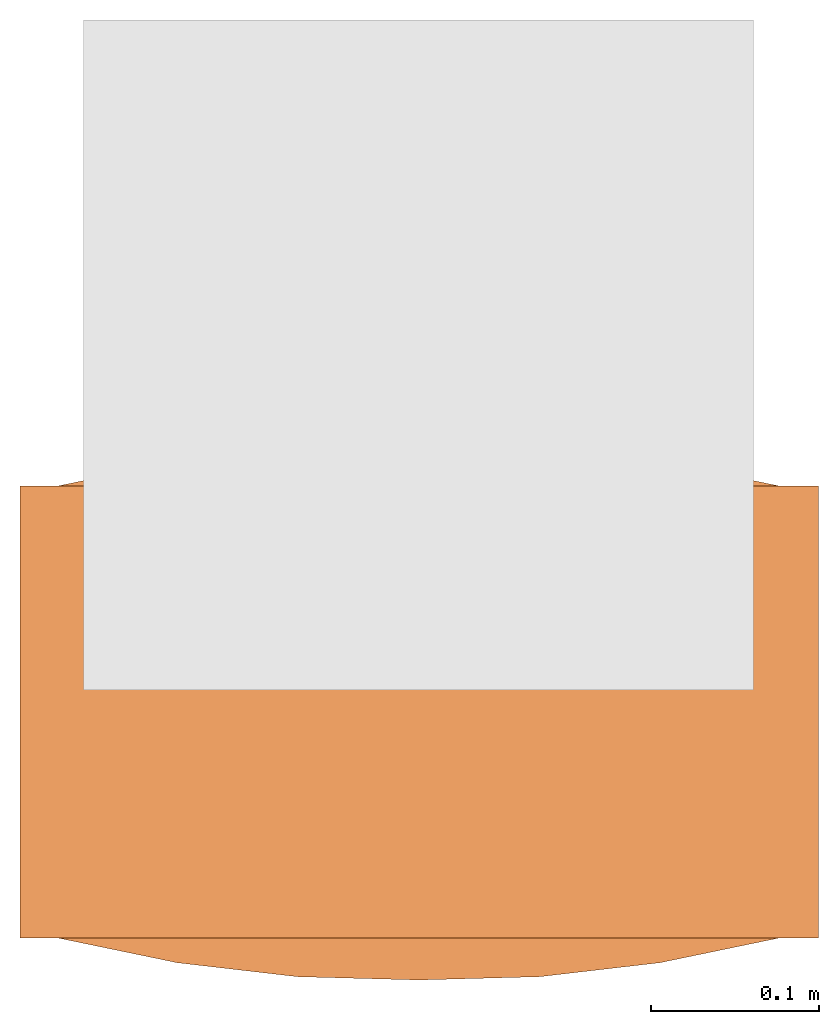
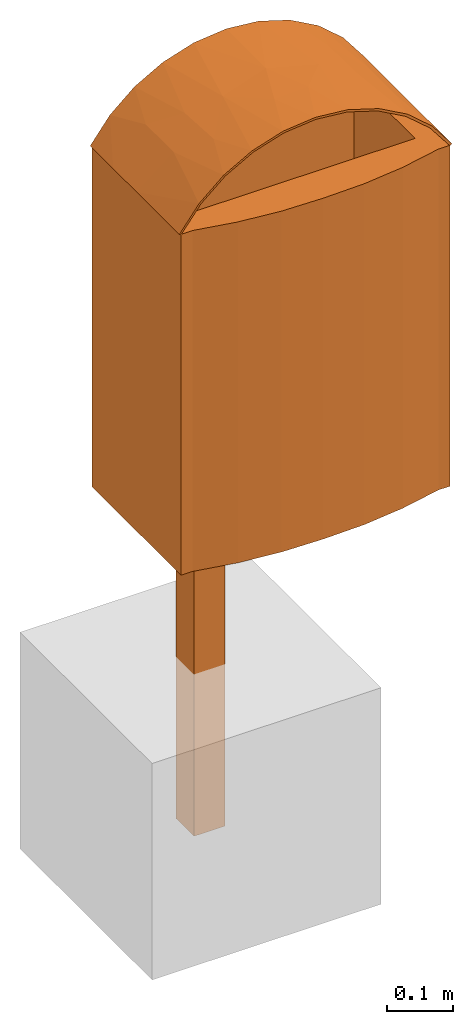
# One storey, part 2 of 2: 1 proxy.
"""IFC4 building model written with IfcOpenShell, lengths in metres."""

from ifc_helpers import new_model, entity, si_unit, converted_unit, direction, frame, origin, place, context, subcontext, project, spatial, polygons, source, transform, mapped, material, type_object, type_shapes, element, save


model = new_model("IFC4")

# Units and contexts
model_context = context("Model", 3, precision=1e-05, world=origin(), true_north=direction((6.123031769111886e-17, 1.0)))
body_context = subcontext(model_context, "Body", "Model", "MODEL_VIEW")
ifc_project = project(units=[si_unit("LENGTHUNIT", "METRE"), converted_unit("PLANEANGLEUNIT", "DEGREE", entity("IfcPlaneAngleMeasure", 0.017453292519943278), si_unit("PLANEANGLEUNIT", "RADIAN"), dimensions=[0, 0, 0, 0, 0, 0, 0]), si_unit("AREAUNIT", "SQUARE_METRE")], contexts=[model_context])

# Site, building, storey
site_placement = place(None, origin())
site = spatial("IfcSite", under=ifc_project, at=site_placement, Name="Default", CompositionType="ELEMENT")
building_placement = place(site_placement, origin())
building = spatial("IfcBuilding", under=site, at=building_placement, CompositionType="ELEMENT")
storey_placement = place(building_placement, origin())
storey = spatial("IfcBuildingStorey", under=building, at=storey_placement, Name="Ebene 0", CompositionType="ELEMENT", Elevation=0.0)

# Proxy
ifc_material = material(Name="DB_Stahl_pulverbeschichtet_DB702", Category="DB_Stahl")
building_element_proxy_type = type_object("IfcBuildingElementProxyType", Name="DB_Abfallbehaelter_einfach_60L_850x470x320_haengend:DB_Abfallbehaelter_einfach_60L_850x470x320_haengend", PredefinedType="NOTDEFINED", material=ifc_material)
shared_shape = source(origin(), body_context, "Body", "Tessellation", [
    polygons([(0.21499999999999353, 0.13500000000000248, 0.8799999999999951), (0.14416839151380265, 0.14969276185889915, 0.8799999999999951), (0.07231309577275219, 0.1580480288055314, 0.8799999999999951), (5.0421000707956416e-15, 0.15999999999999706, 0.8799999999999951), (-0.07231309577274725, 0.15804802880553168, 0.8799999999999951), (-0.1441683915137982, 0.1496927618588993, 0.8799999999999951), (-0.2149999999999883, 0.1350000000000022, 0.8799999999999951), (-0.234328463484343, 0.1349999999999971, 0.8799999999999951), (-0.234328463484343, -0.13499999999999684, 0.8799999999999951), (-0.21499999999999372, -0.13500000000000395, 0.8799999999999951), (-0.14416839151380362, -0.14969276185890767, 0.8799999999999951), (-0.07231309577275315, -0.158048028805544, 0.8799999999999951), (-5.0759396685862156e-15, -0.1600000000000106, 0.8799999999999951), (0.07231309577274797, -0.15804802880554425, 0.8799999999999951), (0.14416839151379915, -0.1496927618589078, 0.8799999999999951), (0.21499999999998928, -0.13500000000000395, 0.8799999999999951), (0.2343284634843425, -0.1349999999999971, 0.8799999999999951), (0.2343284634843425, 0.13499999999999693, 0.8799999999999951), (-0.20163629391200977, 0.09213573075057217, 0.8799999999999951), (0.19836370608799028, 0.09213573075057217, 0.8799999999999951), (0.19836370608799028, -0.09286426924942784, 0.8799999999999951), (-0.20163629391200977, -0.09286426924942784, 0.8799999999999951), (0.23499999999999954, 0.13499999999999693, 0.25), (0.2349999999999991, -0.13499999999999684, 0.25), (0.21499999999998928, -0.13500000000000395, 0.25), (0.14416839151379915, -0.1496927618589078, 0.25), (0.07231309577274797, -0.15804802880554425, 0.25), (-1.6919798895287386e-16, -0.16000000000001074, 0.25), (-0.07231309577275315, -0.158048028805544, 0.25), (-0.14416839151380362, -0.14969276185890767, 0.25), (-0.21499999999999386, -0.1349999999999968, 0.25), (-0.23499999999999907, -0.13499999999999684, 0.25), (-0.23499999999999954, 0.13499999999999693, 0.25), (-0.2149999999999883, 0.1350000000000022, 0.25), (-0.1441683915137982, 0.1496927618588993, 0.25), (-0.07231309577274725, 0.15804802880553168, 0.25), (-1.353583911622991e-16, 0.1599999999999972, 0.25), (0.07231309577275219, 0.1580480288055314, 0.25), (0.14416839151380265, 0.14969276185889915, 0.25), (0.2149999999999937, 0.13499999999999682, 0.25), (-0.23499999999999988, 0.13499999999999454, 0.8789180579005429), (-0.23792552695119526, 0.1349999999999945, 0.8807245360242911), (-0.20339187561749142, 0.13499999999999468, 0.9258499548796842), (-0.16043496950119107, 0.1349999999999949, 0.9630771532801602), (-0.1108227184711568, 0.13499999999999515, 0.9908632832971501), (-0.05659911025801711, 0.13499999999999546, 1.0080542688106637), (-1.049027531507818e-15, 0.13499999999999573, 1.0139327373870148), (0.056639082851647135, 0.134999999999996, 1.008247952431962), (0.11097930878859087, 0.1349999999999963, 0.9912264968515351), (0.1607751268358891, 0.13499999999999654, 0.9635632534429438), (0.20396705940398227, 0.13499999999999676, 0.926393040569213), (0.23876687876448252, 0.13499999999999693, 0.8812440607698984), (0.23499999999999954, 0.13499999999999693, 0.8789180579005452), (0.2001214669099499, 0.13499999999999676, 0.9241586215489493), (0.1577256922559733, 0.13499999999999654, 0.9605338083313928), (0.10887762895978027, 0.1349999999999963, 0.9876340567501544), (0.05557557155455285, 0.134999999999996, 1.0043507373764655), (1.4342498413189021e-08, 0.13499999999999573, 1.0099999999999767), (-0.05557554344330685, 0.13499999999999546, 1.0043507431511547), (-0.10887760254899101, 0.13499999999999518, 0.9876340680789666), (-0.1577256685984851, 0.13499999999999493, 0.9605338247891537), (-0.20012145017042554, 0.1349999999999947, 0.9241586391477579), (-0.2349999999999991, -0.13499999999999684, 0.8789180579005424), (0.23499999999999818, -0.13499999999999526, 0.8789180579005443), (0.23876687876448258, -0.13499999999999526, 0.8812440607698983), (0.20396705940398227, -0.13499999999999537, 0.926393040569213), (0.1607751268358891, -0.1349999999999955, 0.9635632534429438), (0.11097930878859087, -0.13499999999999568, 0.9912264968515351), (0.056639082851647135, -0.13499999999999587, 1.008247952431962), (-1.049027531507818e-15, -0.13499999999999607, 1.0139327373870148), (-0.05659911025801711, -0.13499999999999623, 1.0080542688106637), (-0.11082271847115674, -0.13499999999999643, 0.9908632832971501), (-0.1604349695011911, -0.1349999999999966, 0.9630771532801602), (-0.2033918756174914, -0.13499999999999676, 0.9258499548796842), (-0.23792552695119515, -0.13499999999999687, 0.8807245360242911), (-0.20012146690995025, -0.13499999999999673, 0.9241586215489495), (-0.15772569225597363, -0.1349999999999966, 0.960533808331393), (-0.10887762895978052, -0.13499999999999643, 0.9876340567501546), (-0.055575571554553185, -0.13499999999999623, 1.0043507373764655), (-1.434249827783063e-08, -0.13499999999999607, 1.0099999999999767), (0.05557554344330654, -0.13499999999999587, 1.0043507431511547), (0.1088776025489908, -0.13499999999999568, 0.9876340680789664), (0.1577256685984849, -0.1349999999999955, 0.9605338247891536), (0.20012145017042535, -0.13499999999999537, 0.9241586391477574), (-0.23792552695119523, -0.005059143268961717, 0.8807245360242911), (-0.0841504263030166, 3.957166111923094e-09, 1.000837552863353), (0.23876687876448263, -0.005059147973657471, 0.8812440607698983), (0.08423959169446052, 1.5000466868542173e-08, 1.0011204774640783), (-0.18286259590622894, -0.02182983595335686, 0.9455545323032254), (0.1833150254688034, 0.02025280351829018, 0.9460783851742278), (-0.18286259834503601, 0.061577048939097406, 0.9455545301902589), (0.18331501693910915, -0.062416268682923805, 0.946078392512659), (-0.13899680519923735, 0.019873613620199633, 0.9767241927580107), (-0.13633854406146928, -0.06256000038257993, 0.9782322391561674), (0.13908906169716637, -0.021081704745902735, 0.9772528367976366), (0.13657939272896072, 0.061923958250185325, 0.9786640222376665), (0.23876687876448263, 0.06497042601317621, 0.8812440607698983), (-8.264713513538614e-09, 0.015307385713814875, 1.0139327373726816), (-0.028451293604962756, -0.05984631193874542, 1.0124315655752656), (0.032764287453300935, -0.056683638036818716, 1.0120642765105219), (-0.23792552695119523, 0.06497042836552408, 0.8807245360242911), (0.19836370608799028, 0.09213573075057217, 0.294999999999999), (-0.20163629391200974, 0.09213573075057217, 0.294999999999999), (-0.20163629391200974, -0.09286426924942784, 0.294999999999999), (0.19836370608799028, -0.09286426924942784, 0.294999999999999)], [[[18, 1, 2, 3, 4, 5, 6, 7, 8, 9, 10, 11, 12, 13, 14, 15, 16, 17], [20, 21, 22, 19]], [[102, 103, 104, 105]], [[33, 34, 35, 36, 37, 38, 39, 40, 23, 24, 25, 26, 27, 28, 29, 30, 31, 32]], [[57, 58, 59, 60, 61, 62, 8, 7, 34, 33, 41, 42, 43, 44, 45, 46, 47, 48, 49, 50, 51, 52, 53, 23, 40, 1, 18, 54, 55, 56]], [[104, 22, 21, 105]], [[40, 39, 2, 1]], [[39, 38, 3, 2]], [[38, 37, 4, 3]], [[37, 36, 5, 4]], [[36, 35, 6, 5]], [[35, 34, 7, 6]], [[63, 41, 33, 32]], [[105, 21, 20, 102]], [[79, 80, 81, 82, 83, 84, 17, 16, 25, 24, 64, 65, 66, 67, 68, 69, 70, 71, 72, 73, 74, 75, 63, 32, 31, 10, 9, 76, 77, 78]], [[102, 20, 19, 103]], [[31, 30, 11, 10]], [[30, 29, 12, 11]], [[29, 28, 13, 12]], [[28, 27, 14, 13]], [[27, 26, 15, 14]], [[26, 25, 16, 15]], [[53, 64, 24, 23]], [[104, 103, 19, 22]], [[64, 53, 52, 97, 87, 65]], [[41, 63, 75, 85, 101, 42]], [[89, 73, 94]], [[43, 101, 91]], [[45, 86, 46]], [[44, 93, 45]], [[43, 91, 44]], [[66, 92, 67]], [[98, 46, 86]], [[93, 91, 89]], [[46, 98, 47]], [[68, 88, 69]], [[71, 86, 72]], [[51, 50, 90]], [[85, 75, 74]], [[101, 43, 42]], [[49, 48, 88]], [[96, 88, 95]], [[89, 91, 101, 85]], [[88, 48, 98]], [[92, 87, 97, 90]], [[89, 74, 73]], [[89, 94, 93]], [[86, 93, 94]], [[95, 92, 90]], [[50, 49, 96]], [[70, 100, 99]], [[70, 99, 71]], [[86, 94, 72]], [[44, 91, 93]], [[48, 47, 98]], [[98, 99, 100]], [[67, 92, 95]], [[45, 93, 86]], [[68, 67, 95]], [[90, 97, 51]], [[87, 92, 66]], [[65, 87, 66]], [[97, 52, 51]], [[73, 72, 94]], [[68, 95, 88]], [[88, 96, 49]], [[85, 74, 89]], [[90, 96, 95]], [[90, 50, 96]], [[86, 71, 99]], [[100, 70, 69]], [[86, 99, 98]], [[69, 88, 100]], [[88, 98, 100]], [[76, 9, 8, 62]], [[78, 77, 61, 60]], [[62, 61, 77, 76]], [[60, 59, 79, 78]], [[58, 80, 79, 59]], [[82, 81, 57, 56]], [[83, 55, 54, 84]], [[56, 55, 83, 82]], [[17, 84, 54, 18]], [[81, 80, 58, 57]]], closed=True),
    polygons([(0.02699999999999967, 0.24010000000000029, 0.9), (-0.027000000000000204, 0.24010000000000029, 0.9), (-0.027000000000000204, 0.18610000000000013, 0.9), (0.02699999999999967, 0.18610000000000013, 0.9), (0.019299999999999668, 0.23240000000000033, 0.9), (0.01929999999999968, 0.19380000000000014, 0.9), (-0.019300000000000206, 0.19380000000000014, 0.9), (-0.019300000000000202, 0.23240000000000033, 0.9), (0.02699999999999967, 0.24010000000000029, 0.22199999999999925), (0.02699999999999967, 0.18610000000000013, 0.22199999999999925), (-0.027000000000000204, 0.18610000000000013, 0.22199999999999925), (-0.027000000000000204, 0.24010000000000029, 0.22199999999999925), (0.019299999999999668, 0.23240000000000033, 0.22199999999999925), (-0.019300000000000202, 0.23240000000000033, 0.22199999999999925), (-0.019300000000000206, 0.19380000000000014, 0.22199999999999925), (0.01929999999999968, 0.19380000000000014, 0.22199999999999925)], [[[1, 2, 3, 4], [5, 6, 7, 8]], [[9, 10, 11, 12], [13, 14, 15, 16]], [[2, 1, 9, 12]], [[3, 2, 12, 11]], [[4, 3, 11, 10]], [[1, 4, 10, 9]], [[6, 5, 13, 16]], [[7, 6, 16, 15]], [[8, 7, 15, 14]], [[5, 8, 14, 13]]], closed=True),
    polygons([(0.02699999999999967, 0.24010000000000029, 0.2219999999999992), (-0.027000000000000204, 0.24010000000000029, 0.2219999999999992), (-0.027000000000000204, 0.18610000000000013, 0.2219999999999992), (0.02699999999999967, 0.18610000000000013, 0.2219999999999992), (0.019299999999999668, 0.23240000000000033, 0.2219999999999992), (0.01929999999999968, 0.19380000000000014, 0.2219999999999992), (-0.019300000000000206, 0.19380000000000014, 0.2219999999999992), (-0.019300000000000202, 0.23240000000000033, 0.2219999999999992), (0.02699999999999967, 0.24010000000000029, -0.5), (0.02699999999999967, 0.18610000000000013, -0.5), (-0.027000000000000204, 0.18610000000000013, -0.5), (-0.027000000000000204, 0.24010000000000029, -0.5), (0.019299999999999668, 0.23240000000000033, -0.5), (-0.019300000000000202, 0.23240000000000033, -0.5), (-0.019300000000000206, 0.19380000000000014, -0.5), (0.01929999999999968, 0.19380000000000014, -0.5)], [[[1, 2, 3, 4], [5, 6, 7, 8]], [[9, 10, 11, 12], [13, 14, 15, 16]], [[2, 1, 9, 12]], [[3, 2, 12, 11]], [[4, 3, 11, 10]], [[1, 4, 10, 9]], [[6, 5, 13, 16]], [[7, 6, 16, 15]], [[8, 7, 15, 14]], [[5, 8, 14, 13]]], closed=True),
    polygons([(0.035, 0.18609999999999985, 0.8799999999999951), (-0.035, 0.18609999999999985, 0.8799999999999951), (-0.035000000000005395, 0.15985752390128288, 0.8799999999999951), (-0.017500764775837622, 0.16011663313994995, 0.8799999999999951), (-5.765421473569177e-15, 0.15999999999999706, 0.8799999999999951), (0.01750076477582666, 0.1601166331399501, 0.8799999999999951), (0.035, 0.15985752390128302, 0.8799999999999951), (0.035, 0.18609999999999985, 0.25), (0.03499999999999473, 0.15985752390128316, 0.25), (0.01750076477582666, 0.1601166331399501, 0.25), (-6.205336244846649e-15, 0.15999999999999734, 0.25), (-0.017500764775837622, 0.16011663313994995, 0.25), (-0.034999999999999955, 0.15985752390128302, 0.25), (-0.035, 0.18609999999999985, 0.25), (-1.433348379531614e-14, 0.15999999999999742, 0.4992282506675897), (-0.03500000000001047, 0.15985752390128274, 0.5649999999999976), (-0.03500000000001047, 0.15985752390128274, 0.7553858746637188), (-1.2802092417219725e-14, 0.15999999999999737, 0.6896141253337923), (-0.03500000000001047, 0.15985752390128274, 0.3746141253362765), (-1.5335832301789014e-14, 0.15999999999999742, 0.37461412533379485), (-0.017500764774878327, 0.16011663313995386, 0.4369211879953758), (-0.016033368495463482, 0.16012128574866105, 0.5716517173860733), (-0.016532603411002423, 0.16011999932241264, 0.7485862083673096), (0.034999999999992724, 0.15985752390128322, 0.49922825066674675), (-1.0832901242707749e-14, 0.15999999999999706, 0.5649999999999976), (-1.0832901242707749e-14, 0.15999999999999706, 0.7553858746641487), (0.0349999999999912, 0.15985752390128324, 0.689614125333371), (0.03499999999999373, 0.15985752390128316, 0.3746141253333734), (0.017500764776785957, 0.160116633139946, 0.43692118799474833), (0.018968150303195, 0.16010933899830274, 0.5716517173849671), (0.018468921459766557, 0.16011211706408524, 0.7485862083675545)], [[[7, 1, 2, 3, 4, 5, 6]], [[13, 14, 8, 9, 10, 11, 12]], [[2, 1, 8, 14]], [[3, 2, 14, 13, 19, 16, 17]], [[21, 22, 16]], [[15, 21, 12, 11, 20]], [[23, 18, 26, 5]], [[4, 3, 17]], [[19, 13, 12, 21, 16]], [[17, 23, 4]], [[21, 15, 22]], [[22, 23, 16]], [[17, 16, 23]], [[22, 15, 25, 18]], [[4, 23, 5]], [[18, 23, 22]], [[29, 30, 25]], [[24, 29, 10, 9, 28]], [[7, 31, 27]], [[6, 5, 26]], [[20, 11, 10, 29, 25, 15]], [[26, 31, 6]], [[29, 24, 30]], [[30, 31, 25]], [[31, 26, 18, 25]], [[30, 24, 27]], [[6, 31, 7]], [[27, 31, 30]], [[1, 7, 27, 24, 28, 9, 8]]], closed=True),
])
type_shapes(building_element_proxy_type, [shared_shape])
proxy_placement = place(storey_placement, frame((0.0, -0.21310000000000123, 0.0)))
element("IfcBuildingElementProxy", 1, at=proxy_placement, inside=storey, type_object=building_element_proxy_type, material=ifc_material, Name="DB_Abfallbehaelter_einfach_60L_850x470x320_haengend:DB_Abfallbehaelter_einfach_60L_850x470x320_haengend", ObjectType="DB_Abfallbehaelter_einfach_60L_850x470x320_haengend:DB_Abfallbehaelter_einfach_60L_850x470x320_haengend", PredefinedType="NOTDEFINED", context=body_context, shape_type="MappedRepresentation", body=[
    mapped(shared_shape, transform((0.0, 0.0, 0.0), scale=1.0)),
])

save(model, "model.ifc")
